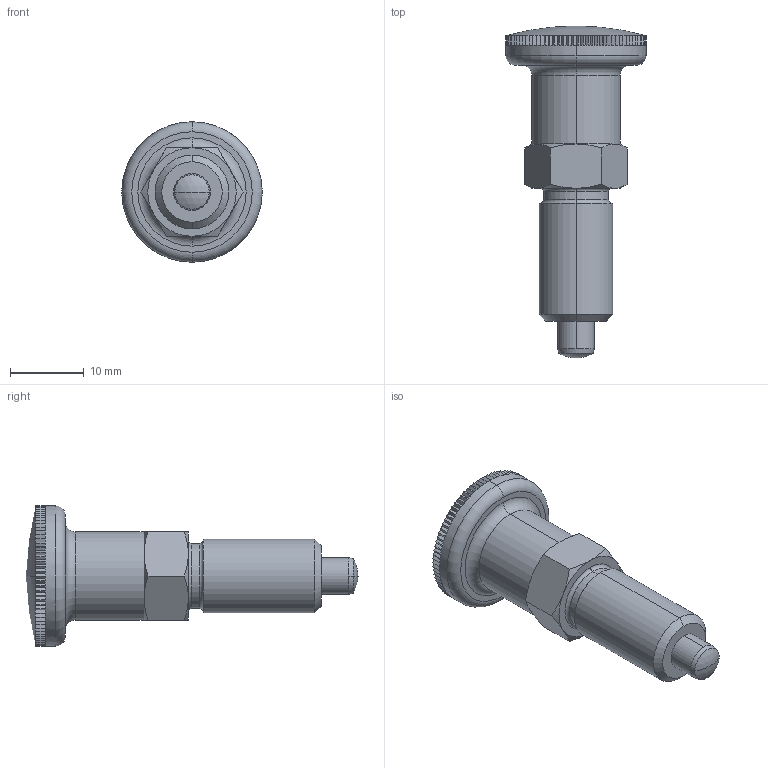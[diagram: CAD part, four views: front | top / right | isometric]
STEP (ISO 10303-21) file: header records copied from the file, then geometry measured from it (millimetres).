
FILE_DESCRIPTION (( 'STEP AP203' ), '1' );
FILE_NAME ('32690.W0226.step', '2011-03-25T12:23:44', ( 'Wixroyd' ), ( 'Wixroyd' ), 'SwSTEP 2.0', 'SolidWorks 2009', '' );
FILE_SCHEMA (( 'CONFIG_CONTROL_DESIGN' ));
Length unit declared in the file: millimetre
Products named in the file (4): Part3_3269.W226; 32690.W0226; Part1_3269.W226; Part2_3269.W226
Assembly tree (3 placements, depth 2):
  32690.W0226
    Part3_3269.W226
    Part1_3269.W226
    Part2_3269.W226
Bounding box: 19 x 45 x 19 mm (x, y, z)
Volume: 4430.5 mm3; surface area: 3808.5 mm2
Topology: 3 solids, 3 shells, 354 faces, 814 edges, 472 vertices
Faces by surface type: plane 305, cylinder 21, cone 16, torus 8, sphere 4
Entity records: 10352 total; most frequent: DIRECTION 1870, CARTESIAN_POINT 1766, ORIENTED_EDGE 1628, EDGE_CURVE 814, AXIS2_PLACEMENT_3D 720, VERTEX_POINT 472, VECTOR 430, LINE 430
